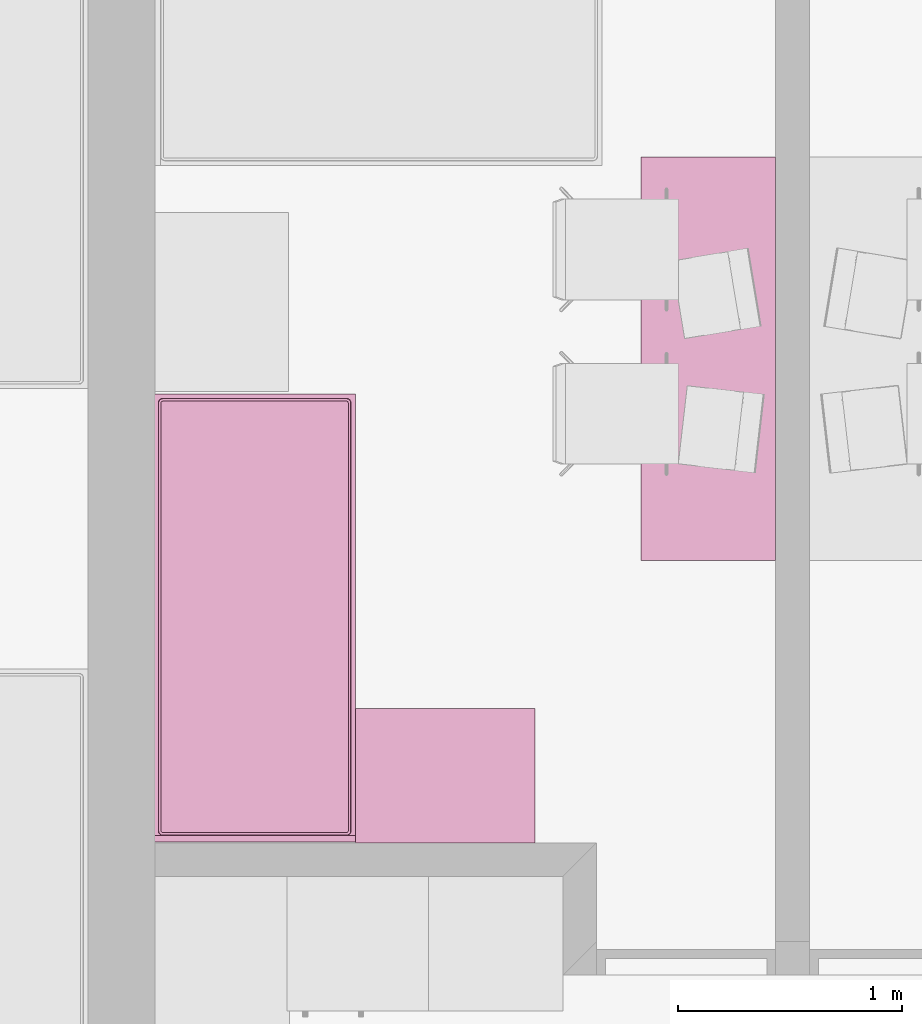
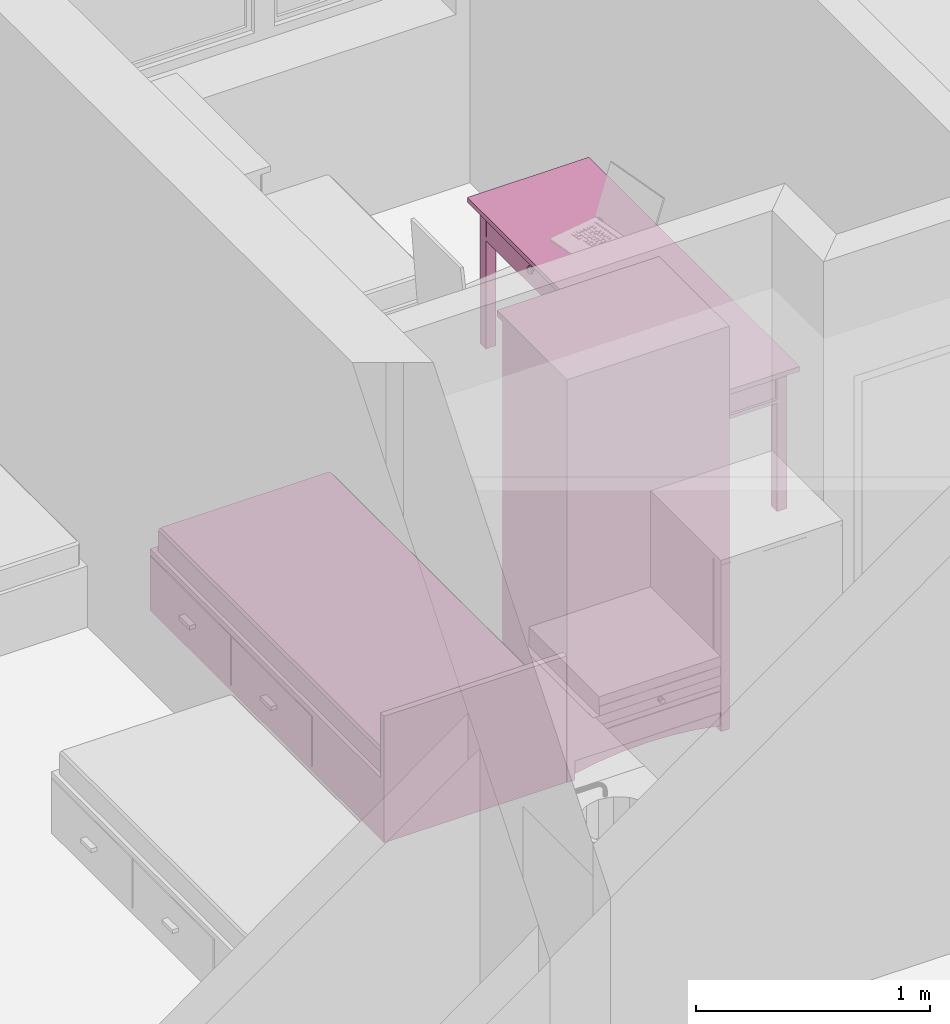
# One storey, part 92 of 172: 3 furnishings.
"""IFC2X3 building model written with IfcOpenShell, lengths in millimetres."""

from ifc_helpers import new_model, entity, si_unit, converted_unit, money_unit, direction, frame, origin_with_axes, place, context, subcontext, project, spatial, faceted_brep, source, transform, mapped, material, material_list, type_object, element, save


model = new_model("IFC2X3")

# Units and contexts
model_context = context("Model", 3, precision=1e-05, world=origin_with_axes(), true_north=direction((0.0, 1.0)))
body_context = subcontext(model_context, "Body", "Model", "MODEL_VIEW")
ifc_project = project(units=[si_unit("LENGTHUNIT", "METRE", prefix="MILLI"), si_unit("AREAUNIT", "SQUARE_METRE"), si_unit("VOLUMEUNIT", "CUBIC_METRE"), converted_unit("PLANEANGLEUNIT", "DEGREE", entity("IfcPlaneAngleMeasure", 0.0174532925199), si_unit("PLANEANGLEUNIT", "RADIAN"), dimensions=[0, 0, 0, 0, 0, 0, 0]), si_unit("SOLIDANGLEUNIT", "STERADIAN"), money_unit("USD"), converted_unit("TIMEUNIT", "Year", entity("IfcTimeMeasure", 31556926.0), si_unit("TIMEUNIT", "SECOND"), dimensions=[0, 0, 0, 0, 0, 0, 0]), si_unit("MASSUNIT", "GRAM"), si_unit("THERMODYNAMICTEMPERATUREUNIT", "DEGREE_CELSIUS"), si_unit("LUMINOUSINTENSITYUNIT", "LUMEN")], contexts=[model_context])

# Site, building, storey
site_placement = place(None, origin_with_axes())
site = spatial("IfcSite", under=ifc_project, at=site_placement, Name="Site", CompositionType="ELEMENT")
building_placement = place(site_placement, origin_with_axes())
building = spatial("IfcBuilding", under=site, at=building_placement, Name="Building", CompositionType="ELEMENT")
storey_placement = place(building_placement, frame((0.0, 0.0, 3200.0), z_axis=(0.0, 0.0, 1.0), x_axis=(1.0, 0.0, 0.0)))
storey = spatial("IfcBuildingStorey", under=building, at=storey_placement, Name="3KORRUS", CompositionType="ELEMENT", Elevation=3200.0)

# Furnishings
ifc_material = material(Name="Background")
ifc_material_list = material_list([ifc_material])
furnishing_element_type_1 = type_object("IfcFurnishingElementType", Name="Bed 19")
shared_shape_1 = source(origin_with_axes(), body_context, "Body", "Brep", [
    faceted_brep([(900.0, 1970.0, 0.0), (0.0, 1970.0, 0.0), (0.0, 2000.0, 0.0), (900.0, 2000.0, 0.0), (900.0, 1970.0, 660.0), (0.0, 1970.0, 660.0), (0.0, 2000.0, 660.0), (900.0, 2000.0, 660.0)], [[[0, 1, 2, 3]], [[1, 0, 4, 5]], [[2, 1, 5, 6]], [[3, 2, 6, 7]], [[0, 3, 7, 4]], [[5, 4, 7, 6]]]),
    faceted_brep([(900.0, 0.0, 0.0), (0.0, 0.0, 0.0), (0.0, 1970.0, 0.0), (900.0, 1970.0, 0.0), (900.0, 0.0, 320.0), (0.0, 0.0, 320.0), (0.0, 1970.0, 320.0), (900.0, 1970.0, 320.0)], [[[0, 1, 2, 3]], [[1, 0, 4, 5]], [[2, 1, 5, 6]], [[3, 2, 6, 7]], [[0, 3, 7, 4]], [[5, 4, 7, 6]]]),
    faceted_brep([(905.0, 10.0, 30.0), (900.0, 10.0, 30.0), (900.0, 695.0, 30.0), (905.0, 695.0, 30.0), (905.0, 10.0, 290.0), (900.0, 10.0, 290.0), (900.0, 695.0, 290.0), (905.0, 695.0, 290.0)], [[[0, 1, 2, 3]], [[1, 0, 4, 5]], [[2, 1, 5, 6]], [[3, 2, 6, 7]], [[0, 3, 7, 4]], [[5, 4, 7, 6]]]),
    faceted_brep([(935.0, 307.5, 150.0), (905.0, 307.5, 150.0), (905.0, 397.5, 150.0), (935.0, 397.5, 150.0), (935.0, 307.5, 170.0), (905.0, 307.5, 170.0), (905.0, 397.5, 170.0), (935.0, 397.5, 170.0)], [[[0, 1, 2, 3]], [[1, 0, 4, 5]], [[2, 1, 5, 6]], [[3, 2, 6, 7]], [[0, 3, 7, 4]], [[5, 4, 7, 6]]]),
    faceted_brep([(905.0, 705.0, 30.0), (900.0, 705.0, 30.0), (900.0, 1390.0, 30.0), (905.0, 1390.0, 30.0), (905.0, 705.0, 290.0), (900.0, 705.0, 290.0), (900.0, 1390.0, 290.0), (905.0, 1390.0, 290.0)], [[[0, 1, 2, 3]], [[1, 0, 4, 5]], [[2, 1, 5, 6]], [[3, 2, 6, 7]], [[0, 3, 7, 4]], [[5, 4, 7, 6]]]),
    faceted_brep([(935.0, 1002.5, 150.0), (905.0, 1002.5, 150.0), (905.0, 1092.5, 150.0), (935.0, 1092.5, 150.0), (935.0, 1002.5, 170.0), (905.0, 1002.5, 170.0), (905.0, 1092.5, 170.0), (935.0, 1092.5, 170.0)], [[[0, 1, 2, 3]], [[1, 0, 4, 5]], [[2, 1, 5, 6]], [[3, 2, 6, 7]], [[0, 3, 7, 4]], [[5, 4, 7, 6]]]),
    faceted_brep([(20.0, 40.0, 350.0), (20.0, 1950.0, 350.0), (21.522, 1957.654, 350.0), (25.858, 1964.142, 350.0), (32.346, 1968.478, 350.0), (40.0, 1970.0, 350.0), (860.0, 1970.0, 350.0), (867.654, 1968.478, 350.0), (874.142, 1964.142, 350.0), (878.478, 1957.654, 350.0), (880.0, 1950.0, 350.0), (880.0, 40.0, 350.0), (878.478, 32.346, 350.0), (874.142, 25.858, 350.0), (867.654, 21.522, 350.0), (860.0, 20.0, 350.0), (40.0, 20.0, 350.0), (32.346, 21.522, 350.0), (25.858, 25.858, 350.0), (21.522, 32.346, 350.0), (20.0, 40.0, 420.0), (20.0, 1950.0, 420.0), (21.522, 1957.654, 420.0), (25.858, 1964.142, 420.0), (32.346, 1968.478, 420.0), (40.0, 1970.0, 420.0), (860.0, 1970.0, 420.0), (867.654, 1968.478, 420.0), (874.142, 1964.142, 420.0), (878.478, 1957.654, 420.0), (880.0, 1950.0, 420.0), (880.0, 40.0, 420.0), (878.478, 32.346, 420.0), (874.142, 25.858, 420.0), (867.654, 21.522, 420.0), (860.0, 20.0, 420.0), (40.0, 20.0, 420.0), (32.346, 21.522, 420.0), (25.858, 25.858, 420.0), (21.522, 32.346, 420.0), (21.522, 40.15, 427.654), (21.522, 1949.85, 427.654), (22.956, 1957.06, 427.654), (26.955, 1963.045, 427.654), (32.94, 1967.044, 427.654), (40.15, 1968.478, 427.654), (859.85, 1968.478, 427.654), (867.06, 1967.044, 427.654), (873.045, 1963.045, 427.654), (877.044, 1957.06, 427.654), (878.478, 1949.85, 427.654), (878.478, 40.15, 427.654), (877.044, 32.94, 427.654), (873.045, 26.955, 427.654), (867.06, 22.956, 427.654), (859.85, 21.522, 427.654), (40.15, 21.522, 427.654), (32.94, 22.956, 427.654), (26.955, 26.955, 427.654), (22.956, 32.94, 427.654), (32.346, 41.216, 438.478), (32.346, 1948.784, 438.478), (33.152, 1952.836, 438.478), (34.759, 1955.241, 438.478), (37.164, 1956.848, 438.478), (41.216, 1957.654, 438.478), (858.784, 1957.654, 438.478), (862.836, 1956.848, 438.478), (865.241, 1955.241, 438.478), (866.848, 1952.836, 438.478), (867.654, 1948.784, 438.478), (867.654, 41.216, 438.478), (866.848, 37.164, 438.478), (865.241, 34.759, 438.478), (862.836, 33.152, 438.478), (858.784, 32.346, 438.478), (41.216, 32.346, 438.478), (37.164, 33.152, 438.478), (34.759, 34.759, 438.478), (33.152, 37.164, 438.478), (40.0, 41.97, 440.0), (40.0, 1948.03, 440.0), (40.327, 1949.673, 440.0), (40.0, 1950.0, 439.924), (41.97, 1950.0, 440.0), (858.03, 1950.0, 440.0), (859.673, 1949.673, 440.0), (860.0, 1950.0, 439.924), (860.0, 1948.03, 440.0), (860.0, 41.97, 440.0), (859.673, 40.327, 440.0), (860.0, 40.0, 439.924), (858.03, 40.0, 440.0), (41.97, 40.0, 440.0), (40.327, 40.327, 440.0), (40.0, 40.0, 439.924)], [[[0, 1, 2, 3, 4, 5, 6, 7, 8, 9, 10, 11, 12, 13, 14, 15, 16, 17, 18, 19]], [[1, 0, 20, 21]], [[2, 1, 21, 22]], [[3, 2, 22, 23]], [[4, 3, 23, 24]], [[5, 4, 24, 25]], [[6, 5, 25, 26]], [[7, 6, 26, 27]], [[8, 7, 27, 28]], [[9, 8, 28, 29]], [[10, 9, 29, 30]], [[11, 10, 30, 31]], [[12, 11, 31, 32]], [[13, 12, 32, 33]], [[14, 13, 33, 34]], [[15, 14, 34, 35]], [[16, 15, 35, 36]], [[17, 16, 36, 37]], [[18, 17, 37, 38]], [[19, 18, 38, 39]], [[0, 19, 39, 20]], [[21, 20, 40, 41]], [[22, 21, 41, 42]], [[23, 22, 42, 43]], [[24, 23, 43, 44]], [[25, 24, 44, 45]], [[26, 25, 45, 46]], [[27, 26, 46, 47]], [[28, 27, 47, 48]], [[29, 28, 48, 49]], [[30, 29, 49, 50]], [[31, 30, 50, 51]], [[32, 31, 51, 52]], [[33, 32, 52, 53]], [[34, 33, 53, 54]], [[35, 34, 54, 55]], [[36, 35, 55, 56]], [[37, 36, 56, 57]], [[38, 37, 57, 58]], [[39, 38, 58, 59]], [[20, 39, 59, 40]], [[41, 40, 60, 61]], [[42, 41, 61, 62]], [[43, 42, 62, 63]], [[44, 43, 63, 64]], [[45, 44, 64, 65]], [[46, 45, 65, 66]], [[47, 46, 66, 67]], [[48, 47, 67, 68]], [[49, 48, 68, 69]], [[50, 49, 69, 70]], [[51, 50, 70, 71]], [[52, 51, 71, 72]], [[53, 52, 72, 73]], [[54, 53, 73, 74]], [[55, 54, 74, 75]], [[56, 55, 75, 76]], [[57, 56, 76, 77]], [[58, 57, 77, 78]], [[59, 58, 78, 79]], [[40, 59, 79, 60]], [[61, 60, 80, 81]], [[62, 61, 81, 82, 83]], [[63, 62, 83]], [[64, 63, 83]], [[65, 64, 83, 82, 84]], [[66, 65, 84, 85]], [[67, 66, 85, 86, 87]], [[68, 67, 87]], [[69, 68, 87]], [[70, 69, 87, 86, 88]], [[71, 70, 88, 89]], [[72, 71, 89, 90, 91]], [[73, 72, 91]], [[74, 73, 91]], [[75, 74, 91, 90, 92]], [[76, 75, 92, 93]], [[77, 76, 93, 94, 95]], [[78, 77, 95]], [[79, 78, 95]], [[60, 79, 95, 94, 80]], [[81, 80, 94, 93, 92, 90, 89, 88, 86, 85, 84, 82]]]),
    faceted_brep([(20.0, 40.0, 350.0), (21.522, 32.346, 350.0), (25.858, 25.858, 350.0), (32.346, 21.522, 350.0), (40.0, 20.0, 350.0), (860.0, 20.0, 350.0), (867.654, 21.522, 350.0), (874.142, 25.858, 350.0), (878.478, 32.346, 350.0), (880.0, 40.0, 350.0), (880.0, 1950.0, 350.0), (878.478, 1957.654, 350.0), (874.142, 1964.142, 350.0), (867.654, 1968.478, 350.0), (860.0, 1970.0, 350.0), (40.0, 1970.0, 350.0), (32.346, 1968.478, 350.0), (25.858, 1964.142, 350.0), (21.522, 1957.654, 350.0), (20.0, 1950.0, 350.0), (20.0, 40.0, 320.0), (21.522, 32.346, 320.0), (25.858, 25.858, 320.0), (32.346, 21.522, 320.0), (40.0, 20.0, 320.0), (860.0, 20.0, 320.0), (867.654, 21.522, 320.0), (874.142, 25.858, 320.0), (878.478, 32.346, 320.0), (880.0, 40.0, 320.0), (880.0, 1950.0, 320.0), (878.478, 1957.654, 320.0), (874.142, 1964.142, 320.0), (867.654, 1968.478, 320.0), (860.0, 1970.0, 320.0), (40.0, 1970.0, 320.0), (32.346, 1968.478, 320.0), (25.858, 1964.142, 320.0), (21.522, 1957.654, 320.0), (20.0, 1950.0, 320.0)], [[[0, 1, 2, 3, 4, 5, 6, 7, 8, 9, 10, 11, 12, 13, 14, 15, 16, 17, 18, 19]], [[0, 20, 21, 1]], [[1, 21, 22, 2]], [[2, 22, 23, 3]], [[3, 23, 24, 4]], [[4, 24, 25, 5]], [[5, 25, 26, 6]], [[6, 26, 27, 7]], [[7, 27, 28, 8]], [[8, 28, 29, 9]], [[9, 29, 30, 10]], [[10, 30, 31, 11]], [[11, 31, 32, 12]], [[12, 32, 33, 13]], [[13, 33, 34, 14]], [[14, 34, 35, 15]], [[15, 35, 36, 16]], [[16, 36, 37, 17]], [[17, 37, 38, 18]], [[18, 38, 39, 19]], [[19, 39, 20, 0]], [[20, 39, 38, 37, 36, 35, 34, 33, 32, 31, 30, 29, 28, 27, 26, 25, 24, 23, 22, 21]]]),
])
furnishing_1_placement = place(storey_placement, frame((-41096.5850987, -7213.30556125, 0.0), z_axis=(0.0, 0.0, 1.0), x_axis=(-1.0, 0.0, 0.0)))
element("IfcFurnishingElement", 1, at=furnishing_1_placement, inside=storey, type_object=furnishing_element_type_1, material=ifc_material_list, Name="FU - 013", context=body_context, shape_type="MappedRepresentation", body=[
    mapped(shared_shape_1, transform((0.0, 0.0, 0.0))),
])
furnishing_element_type_2 = type_object("IfcFurnishingElementType", Name="Cupboard 19")
shared_shape_2 = source(origin_with_axes(), body_context, "Body", "Brep", [
    faceted_brep([(780.0, 600.0, 120.0), (780.0, 600.0, 2050.0), (780.0, 580.0, 2050.0), (780.0, 580.0, 120.0), (20.0, 600.0, 120.0), (20.0, 600.0, 2050.0), (20.0, 580.0, 2050.0), (20.0, 580.0, 120.0)], [[[0, 1, 2, 3]], [[4, 5, 1, 0]], [[1, 5, 6, 2]], [[3, 2, 6, 7]], [[0, 3, 7, 4]], [[7, 6, 5, 4]]]),
    faceted_brep([(0.0, 50.0, 100.0), (0.0, 600.0, 100.0), (20.0, 600.0, 100.0), (20.0, 50.0, 100.0), (0.0, 50.0, 2070.0), (0.0, 600.0, 2070.0), (20.0, 600.0, 2070.0), (20.0, 50.0, 2070.0)], [[[0, 1, 2, 3]], [[0, 4, 5, 1]], [[1, 5, 6, 2]], [[2, 6, 7, 3]], [[3, 7, 4, 0]], [[7, 6, 5, 4]]]),
    faceted_brep([(780.0, 50.0, 100.0), (780.0, 600.0, 100.0), (800.0, 600.0, 100.0), (800.0, 50.0, 100.0), (780.0, 50.0, 2070.0), (780.0, 600.0, 2070.0), (800.0, 600.0, 2070.0), (800.0, 50.0, 2070.0)], [[[0, 1, 2, 3]], [[0, 4, 5, 1]], [[1, 5, 6, 2]], [[2, 6, 7, 3]], [[3, 7, 4, 0]], [[7, 6, 5, 4]]]),
    faceted_brep([(20.0, 50.0, 100.0), (20.0, 600.0, 100.0), (780.0, 600.0, 100.0), (780.0, 50.0, 100.0), (20.0, 50.0, 120.0), (20.0, 600.0, 120.0), (780.0, 600.0, 120.0), (780.0, 50.0, 120.0)], [[[0, 1, 2, 3]], [[0, 4, 5, 1]], [[1, 5, 6, 2]], [[2, 6, 7, 3]], [[3, 7, 4, 0]], [[7, 6, 5, 4]]]),
    faceted_brep([(20.0, 50.0, 2050.0), (20.0, 600.0, 2050.0), (780.0, 600.0, 2050.0), (780.0, 50.0, 2050.0), (20.0, 50.0, 2070.0), (20.0, 600.0, 2070.0), (780.0, 600.0, 2070.0), (780.0, 50.0, 2070.0)], [[[0, 1, 2, 3]], [[0, 4, 5, 1]], [[1, 5, 6, 2]], [[2, 6, 7, 3]], [[3, 7, 4, 0]], [[7, 6, 5, 4]]]),
    faceted_brep([(0.0, 600.0, 2070.0), (0.0, 0.0, 2070.0), (0.0, 0.0, 2100.0), (0.0, 600.0, 2100.0), (800.0, 600.0, 2070.0), (800.0, 0.0, 2070.0), (800.0, 0.0, 2100.0), (800.0, 600.0, 2100.0)], [[[0, 1, 2, 3]], [[0, 4, 5, 1]], [[1, 5, 6, 2]], [[3, 2, 6, 7]], [[4, 0, 3, 7]], [[5, 4, 7, 6]]]),
    faceted_brep([(760.0, 590.0, 25.0), (760.0, 570.0, 25.0), (640.962, 570.0, 45.8), (640.962, 590.0, 45.8), (760.0, 590.0, 100.0), (760.0, 570.0, 100.0), (40.0, 570.0, 100.0), (40.0, 570.0, 25.0), (159.038, 570.0, 45.8), (279.23, 570.0, 58.32), (400.0, 570.0, 62.5), (520.77, 570.0, 58.32), (520.77, 590.0, 58.32), (400.0, 590.0, 62.5), (279.23, 590.0, 58.32), (159.038, 590.0, 45.8), (40.0, 590.0, 25.0), (40.0, 590.0, 100.0)], [[[0, 1, 2, 3]], [[4, 5, 1, 0]], [[1, 5, 6, 7, 8, 9, 10, 11, 2]], [[3, 2, 11, 12]], [[0, 3, 12, 13, 14, 15, 16, 17, 4]], [[17, 6, 5, 4]], [[16, 7, 6, 17]], [[15, 8, 7, 16]], [[14, 9, 8, 15]], [[13, 10, 9, 14]], [[12, 11, 10, 13]]]),
    faceted_brep([(760.0, 80.0, 25.0), (760.0, 60.0, 25.0), (640.962, 60.0, 45.8), (640.962, 80.0, 45.8), (760.0, 80.0, 100.0), (760.0, 60.0, 100.0), (40.0, 60.0, 100.0), (40.0, 60.0, 25.0), (159.038, 60.0, 45.8), (279.23, 60.0, 58.32), (400.0, 60.0, 62.5), (520.77, 60.0, 58.32), (520.77, 80.0, 58.32), (400.0, 80.0, 62.5), (279.23, 80.0, 58.32), (159.038, 80.0, 45.8), (40.0, 80.0, 25.0), (40.0, 80.0, 100.0)], [[[0, 1, 2, 3]], [[4, 5, 1, 0]], [[1, 5, 6, 7, 8, 9, 10, 11, 2]], [[3, 2, 11, 12]], [[0, 3, 12, 13, 14, 15, 16, 17, 4]], [[17, 6, 5, 4]], [[16, 7, 6, 17]], [[15, 8, 7, 16]], [[14, 9, 8, 15]], [[13, 10, 9, 14]], [[12, 11, 10, 13]]]),
    faceted_brep([(790.0, 90.0, 25.0), (770.0, 90.0, 25.0), (770.0, 141.266, 38.072), (790.0, 141.266, 38.072), (790.0, 90.0, 100.0), (770.0, 90.0, 100.0), (770.0, 560.0, 100.0), (770.0, 560.0, 25.0), (770.0, 508.734, 38.072), (770.0, 456.752, 47.92), (770.0, 404.257, 54.508), (770.0, 351.453, 57.808), (770.0, 298.547, 57.808), (770.0, 245.743, 54.508), (770.0, 193.248, 47.92), (790.0, 193.248, 47.92), (790.0, 245.743, 54.508), (790.0, 298.547, 57.808), (790.0, 351.453, 57.808), (790.0, 404.257, 54.508), (790.0, 456.752, 47.92), (790.0, 508.734, 38.072), (790.0, 560.0, 25.0), (790.0, 560.0, 100.0)], [[[0, 1, 2, 3]], [[4, 5, 1, 0]], [[1, 5, 6, 7, 8, 9, 10, 11, 12, 13, 14, 2]], [[3, 2, 14, 15]], [[0, 3, 15, 16, 17, 18, 19, 20, 21, 22, 23, 4]], [[23, 6, 5, 4]], [[22, 7, 6, 23]], [[21, 8, 7, 22]], [[20, 9, 8, 21]], [[19, 10, 9, 20]], [[18, 11, 10, 19]], [[17, 12, 11, 18]], [[16, 13, 12, 17]], [[15, 14, 13, 16]]]),
    faceted_brep([(30.0, 90.0, 25.0), (10.0, 90.0, 25.0), (10.0, 141.266, 38.072), (30.0, 141.266, 38.072), (30.0, 90.0, 100.0), (10.0, 90.0, 100.0), (10.0, 560.0, 100.0), (10.0, 560.0, 25.0), (10.0, 508.734, 38.072), (10.0, 456.752, 47.92), (10.0, 404.257, 54.508), (10.0, 351.453, 57.808), (10.0, 298.547, 57.808), (10.0, 245.743, 54.508), (10.0, 193.248, 47.92), (30.0, 193.248, 47.92), (30.0, 245.743, 54.508), (30.0, 298.547, 57.808), (30.0, 351.453, 57.808), (30.0, 404.257, 54.508), (30.0, 456.752, 47.92), (30.0, 508.734, 38.072), (30.0, 560.0, 25.0), (30.0, 560.0, 100.0)], [[[0, 1, 2, 3]], [[4, 5, 1, 0]], [[1, 5, 6, 7, 8, 9, 10, 11, 12, 13, 14, 2]], [[3, 2, 14, 15]], [[0, 3, 15, 16, 17, 18, 19, 20, 21, 22, 23, 4]], [[23, 6, 5, 4]], [[22, 7, 6, 23]], [[21, 8, 7, 22]], [[20, 9, 8, 21]], [[19, 10, 9, 20]], [[18, 11, 10, 19]], [[17, 12, 11, 18]], [[16, 13, 12, 17]], [[15, 14, 13, 16]]]),
    faceted_brep([(760.0, 560.0, 0.0), (760.0, 560.0, 100.0), (760.0, 600.0, 100.0), (760.0, 600.0, 0.0), (800.0, 560.0, 0.0), (800.0, 560.0, 100.0), (800.0, 600.0, 100.0), (800.0, 600.0, 0.0)], [[[0, 1, 2, 3]], [[4, 5, 1, 0]], [[1, 5, 6, 2]], [[3, 2, 6, 7]], [[0, 3, 7, 4]], [[7, 6, 5, 4]]]),
    faceted_brep([(0.0, 560.0, 0.0), (0.0, 560.0, 100.0), (0.0, 600.0, 100.0), (0.0, 600.0, 0.0), (40.0, 560.0, 0.0), (40.0, 560.0, 100.0), (40.0, 600.0, 100.0), (40.0, 600.0, 0.0)], [[[0, 1, 2, 3]], [[4, 5, 1, 0]], [[1, 5, 6, 2]], [[3, 2, 6, 7]], [[0, 3, 7, 4]], [[7, 6, 5, 4]]]),
    faceted_brep([(760.0, 50.0, 0.0), (760.0, 50.0, 100.0), (760.0, 90.0, 100.0), (760.0, 90.0, 0.0), (800.0, 50.0, 0.0), (800.0, 50.0, 100.0), (800.0, 90.0, 100.0), (800.0, 90.0, 0.0)], [[[0, 1, 2, 3]], [[4, 5, 1, 0]], [[1, 5, 6, 2]], [[3, 2, 6, 7]], [[0, 3, 7, 4]], [[7, 6, 5, 4]]]),
    faceted_brep([(0.0, 50.0, 0.0), (0.0, 50.0, 100.0), (0.0, 90.0, 100.0), (0.0, 90.0, 0.0), (40.0, 50.0, 0.0), (40.0, 50.0, 100.0), (40.0, 90.0, 100.0), (40.0, 90.0, 0.0)], [[[0, 1, 2, 3]], [[4, 5, 1, 0]], [[1, 5, 6, 2]], [[3, 2, 6, 7]], [[0, 3, 7, 4]], [[7, 6, 5, 4]]]),
    faceted_brep([(780.0, 580.0, 587.5), (780.0, 580.0, 607.5), (780.0, 50.0, 607.5), (780.0, 50.0, 587.5), (20.0, 580.0, 587.5), (20.0, 580.0, 607.5), (20.0, 50.0, 607.5), (20.0, 50.0, 587.5)], [[[0, 1, 2, 3]], [[4, 5, 1, 0]], [[1, 5, 6, 2]], [[3, 2, 6, 7]], [[0, 3, 7, 4]], [[7, 6, 5, 4]]]),
    faceted_brep([(780.0, 580.0, 1075.0), (780.0, 580.0, 1095.0), (780.0, 50.0, 1095.0), (780.0, 50.0, 1075.0), (20.0, 580.0, 1075.0), (20.0, 580.0, 1095.0), (20.0, 50.0, 1095.0), (20.0, 50.0, 1075.0)], [[[0, 1, 2, 3]], [[4, 5, 1, 0]], [[1, 5, 6, 2]], [[3, 2, 6, 7]], [[0, 3, 7, 4]], [[7, 6, 5, 4]]]),
    faceted_brep([(780.0, 580.0, 1562.5), (780.0, 580.0, 1582.5), (780.0, 50.0, 1582.5), (780.0, 50.0, 1562.5), (20.0, 580.0, 1562.5), (20.0, 580.0, 1582.5), (20.0, 50.0, 1582.5), (20.0, 50.0, 1562.5)], [[[0, 1, 2, 3]], [[4, 5, 1, 0]], [[1, 5, 6, 2]], [[3, 2, 6, 7]], [[0, 3, 7, 4]], [[7, 6, 5, 4]]]),
    faceted_brep([(789.5, 50.0, 110.5), (400.5, 50.0, 110.5), (400.5, 50.0, 2059.5), (789.5, 50.0, 2059.5), (789.5, 40.0, 110.5), (400.5, 40.0, 110.5), (400.5, 40.0, 2059.5), (789.5, 40.0, 2059.5), (779.5, 30.0, 120.5), (410.5, 30.0, 120.5), (410.5, 30.0, 2049.5), (779.5, 30.0, 2049.5)], [[[0, 1, 2, 3]], [[0, 4, 5, 1]], [[1, 5, 6, 2]], [[2, 6, 7, 3]], [[3, 7, 4, 0]], [[4, 8, 9, 5]], [[5, 9, 10, 6]], [[6, 10, 11, 7]], [[7, 11, 8, 4]], [[10, 9, 8, 11]]]),
    faceted_brep([(399.5, 50.0, 110.5), (10.5, 50.0, 110.5), (10.5, 50.0, 2059.5), (399.5, 50.0, 2059.5), (399.5, 40.0, 110.5), (10.5, 40.0, 110.5), (10.5, 40.0, 2059.5), (399.5, 40.0, 2059.5), (389.5, 30.0, 120.5), (20.5, 30.0, 120.5), (20.5, 30.0, 2049.5), (389.5, 30.0, 2049.5)], [[[0, 1, 2, 3]], [[0, 4, 5, 1]], [[1, 5, 6, 2]], [[2, 6, 7, 3]], [[3, 7, 4, 0]], [[4, 8, 9, 5]], [[5, 9, 10, 6]], [[6, 10, 11, 7]], [[7, 11, 8, 4]], [[10, 9, 8, 11]]]),
    faceted_brep([(339.608, 30.0, 954.0), (338.0, 30.0, 960.0), (339.608, 30.0, 966.0), (344.0, 30.0, 970.392), (350.0, 30.0, 972.0), (356.0, 30.0, 970.392), (360.392, 30.0, 966.0), (362.0, 30.0, 960.0), (360.392, 30.0, 954.0), (356.0, 30.0, 949.608), (350.0, 30.0, 948.0), (344.0, 30.0, 949.608), (339.608, 5.0, 954.0), (338.0, 5.0, 960.0), (339.608, 5.0, 966.0), (344.0, 5.0, 970.392), (350.0, 5.0, 972.0), (356.0, 5.0, 970.392), (360.392, 5.0, 966.0), (362.0, 5.0, 960.0), (360.392, 5.0, 954.0), (356.0, 5.0, 949.608), (350.0, 5.0, 948.0), (344.0, 5.0, 949.608)], [[[0, 1, 2, 3, 4, 5, 6, 7, 8, 9, 10, 11]], [[0, 12, 13, 1]], [[1, 13, 14, 2]], [[2, 14, 15, 3]], [[3, 15, 16, 4]], [[4, 16, 17, 5]], [[5, 17, 18, 6]], [[6, 18, 19, 7]], [[7, 19, 20, 8]], [[8, 20, 21, 9]], [[9, 21, 22, 10]], [[10, 22, 23, 11]], [[11, 23, 12, 0]], [[12, 23, 22, 21, 20, 19, 18, 17, 16, 15, 14, 13]]]),
    faceted_brep([(460.392, 30.0, 954.0), (456.0, 30.0, 949.608), (450.0, 30.0, 948.0), (444.0, 30.0, 949.608), (439.608, 30.0, 954.0), (438.0, 30.0, 960.0), (439.608, 30.0, 966.0), (444.0, 30.0, 970.392), (450.0, 30.0, 972.0), (456.0, 30.0, 970.392), (460.392, 30.0, 966.0), (462.0, 30.0, 960.0), (460.392, 5.0, 954.0), (456.0, 5.0, 949.608), (450.0, 5.0, 948.0), (444.0, 5.0, 949.608), (439.608, 5.0, 954.0), (438.0, 5.0, 960.0), (439.608, 5.0, 966.0), (444.0, 5.0, 970.392), (450.0, 5.0, 972.0), (456.0, 5.0, 970.392), (460.392, 5.0, 966.0), (462.0, 5.0, 960.0)], [[[0, 1, 2, 3, 4, 5, 6, 7, 8, 9, 10, 11]], [[1, 0, 12, 13]], [[2, 1, 13, 14]], [[3, 2, 14, 15]], [[4, 3, 15, 16]], [[5, 4, 16, 17]], [[6, 5, 17, 18]], [[7, 6, 18, 19]], [[8, 7, 19, 20]], [[9, 8, 20, 21]], [[10, 9, 21, 22]], [[11, 10, 22, 23]], [[0, 11, 23, 12]], [[12, 23, 22, 21, 20, 19, 18, 17, 16, 15, 14, 13]]]),
])
furnishing_2_placement = place(storey_placement, frame((-40296.5850987, -8616.37850445, 0.0), z_axis=(0.0, 0.0, 1.0), x_axis=(-1.0, 0.0, 0.0)))
element("IfcFurnishingElement", 2, at=furnishing_2_placement, inside=storey, type_object=furnishing_element_type_2, material=ifc_material_list, Name="FU - 014", context=body_context, shape_type="MappedRepresentation", body=[
    mapped(shared_shape_2, transform((0.0, 0.0, 0.0))),
])
furnishing_element_type_3 = type_object("IfcFurnishingElementType", Name="Rectangular Table 01 19")
shared_shape_3 = source(origin_with_axes(), body_context, "Body", "Brep", [
    faceted_brep([(90.0, 40.0, 0.0), (40.0, 40.0, 0.0), (40.0, 90.0, 0.0), (90.0, 90.0, 0.0), (90.0, 40.0, 725.0), (40.0, 40.0, 725.0), (40.0, 90.0, 725.0), (90.0, 90.0, 725.0)], [[[0, 1, 2, 3]], [[1, 0, 4, 5]], [[2, 1, 5, 6]], [[3, 2, 6, 7]], [[0, 3, 7, 4]], [[5, 4, 7, 6]]]),
    faceted_brep([(1760.0, 40.0, 0.0), (1710.0, 40.0, 0.0), (1710.0, 90.0, 0.0), (1760.0, 90.0, 0.0), (1760.0, 40.0, 725.0), (1710.0, 40.0, 725.0), (1710.0, 90.0, 725.0), (1760.0, 90.0, 725.0)], [[[0, 1, 2, 3]], [[1, 0, 4, 5]], [[2, 1, 5, 6]], [[3, 2, 6, 7]], [[0, 3, 7, 4]], [[5, 4, 7, 6]]]),
    faceted_brep([(90.0, 510.0, 0.0), (40.0, 510.0, 0.0), (40.0, 560.0, 0.0), (90.0, 560.0, 0.0), (90.0, 510.0, 725.0), (40.0, 510.0, 725.0), (40.0, 560.0, 725.0), (90.0, 560.0, 725.0)], [[[0, 1, 2, 3]], [[1, 0, 4, 5]], [[2, 1, 5, 6]], [[3, 2, 6, 7]], [[0, 3, 7, 4]], [[5, 4, 7, 6]]]),
    faceted_brep([(1760.0, 510.0, 0.0), (1710.0, 510.0, 0.0), (1710.0, 560.0, 0.0), (1760.0, 560.0, 0.0), (1760.0, 510.0, 725.0), (1710.0, 510.0, 725.0), (1710.0, 560.0, 725.0), (1760.0, 560.0, 725.0)], [[[0, 1, 2, 3]], [[1, 0, 4, 5]], [[2, 1, 5, 6]], [[3, 2, 6, 7]], [[0, 3, 7, 4]], [[5, 4, 7, 6]]]),
    faceted_brep([(1760.0, 40.0, 565.0), (40.0, 40.0, 565.0), (40.0, 560.0, 565.0), (1760.0, 560.0, 565.0), (1760.0, 40.0, 585.0), (40.0, 40.0, 585.0), (40.0, 560.0, 585.0), (1760.0, 560.0, 585.0)], [[[0, 1, 2, 3]], [[1, 0, 4, 5]], [[2, 1, 5, 6]], [[3, 2, 6, 7]], [[0, 3, 7, 4]], [[5, 4, 7, 6]]]),
    faceted_brep([(1710.0, 52.5, 585.0), (90.0, 52.5, 585.0), (90.0, 77.5, 585.0), (1710.0, 77.5, 585.0), (1710.0, 52.5, 745.0), (90.0, 52.5, 745.0), (90.0, 77.5, 745.0), (1710.0, 77.5, 745.0)], [[[0, 1, 2, 3]], [[1, 0, 4, 5]], [[2, 1, 5, 6]], [[3, 2, 6, 7]], [[0, 3, 7, 4]], [[5, 4, 7, 6]]]),
    faceted_brep([(77.5, 90.0, 585.0), (52.5, 90.0, 585.0), (52.5, 510.0, 585.0), (77.5, 510.0, 585.0), (77.5, 90.0, 745.0), (52.5, 90.0, 745.0), (52.5, 510.0, 745.0), (77.5, 510.0, 745.0)], [[[0, 1, 2, 3]], [[1, 0, 4, 5]], [[2, 1, 5, 6]], [[3, 2, 6, 7]], [[0, 3, 7, 4]], [[5, 4, 7, 6]]]),
    faceted_brep([(90.0, 547.5, 585.0), (1710.0, 547.5, 585.0), (1710.0, 522.5, 585.0), (90.0, 522.5, 585.0), (90.0, 547.5, 745.0), (1710.0, 547.5, 745.0), (1710.0, 522.5, 745.0), (90.0, 522.5, 745.0)], [[[0, 1, 2, 3]], [[1, 0, 4, 5]], [[2, 1, 5, 6]], [[3, 2, 6, 7]], [[0, 3, 7, 4]], [[5, 4, 7, 6]]]),
    faceted_brep([(1722.5, 510.0, 585.0), (1747.5, 510.0, 585.0), (1747.5, 90.0, 585.0), (1722.5, 90.0, 585.0), (1722.5, 510.0, 745.0), (1747.5, 510.0, 745.0), (1747.5, 90.0, 745.0), (1722.5, 90.0, 745.0)], [[[0, 1, 2, 3]], [[1, 0, 4, 5]], [[2, 1, 5, 6]], [[3, 2, 6, 7]], [[0, 3, 7, 4]], [[5, 4, 7, 6]]]),
    faceted_brep([(897.5, 40.0, 585.0), (95.0, 40.0, 585.0), (95.0, 60.0, 585.0), (897.5, 60.0, 585.0), (897.5, 40.0, 745.0), (95.0, 40.0, 745.0), (95.0, 60.0, 745.0), (897.5, 60.0, 745.0)], [[[0, 1, 2, 3]], [[1, 0, 4, 5]], [[2, 1, 5, 6]], [[3, 2, 6, 7]], [[0, 3, 7, 4]], [[5, 4, 7, 6]]]),
    faceted_brep([(1705.0, 40.0, 585.0), (902.5, 40.0, 585.0), (902.5, 60.0, 585.0), (1705.0, 60.0, 585.0), (1705.0, 40.0, 745.0), (902.5, 40.0, 745.0), (902.5, 60.0, 745.0), (1705.0, 60.0, 745.0)], [[[0, 1, 2, 3]], [[1, 0, 4, 5]], [[2, 1, 5, 6]], [[3, 2, 6, 7]], [[0, 3, 7, 4]], [[5, 4, 7, 6]]]),
    faceted_brep([(504.91, 40.0, 660.0), (501.25, 40.0, 656.34), (496.25, 40.0, 655.0), (491.25, 40.0, 656.34), (487.59, 40.0, 660.0), (486.25, 40.0, 665.0), (487.59, 40.0, 670.0), (491.25, 40.0, 673.66), (496.25, 40.0, 675.0), (501.25, 40.0, 673.66), (504.91, 40.0, 670.0), (506.25, 40.0, 665.0), (504.91, 25.0, 660.0), (501.25, 25.0, 656.34), (496.25, 25.0, 655.0), (491.25, 25.0, 656.34), (487.59, 25.0, 660.0), (486.25, 25.0, 665.0), (487.59, 25.0, 670.0), (491.25, 25.0, 673.66), (496.25, 25.0, 675.0), (501.25, 25.0, 673.66), (504.91, 25.0, 670.0), (506.25, 25.0, 665.0)], [[[0, 1, 2, 3, 4, 5, 6, 7, 8, 9, 10, 11]], [[1, 0, 12, 13]], [[2, 1, 13, 14]], [[3, 2, 14, 15]], [[4, 3, 15, 16]], [[5, 4, 16, 17]], [[6, 5, 17, 18]], [[7, 6, 18, 19]], [[8, 7, 19, 20]], [[9, 8, 20, 21]], [[10, 9, 21, 22]], [[11, 10, 22, 23]], [[0, 11, 23, 12]], [[12, 23, 22, 21, 20, 19, 18, 17, 16, 15, 14, 13]]]),
    faceted_brep([(506.25, 12.01, 665.0), (496.25, 10.0, 665.0), (504.91, 12.01, 660.0), (504.91, 12.01, 670.0), (501.25, 12.01, 656.34), (513.571, 17.5, 665.0), (511.25, 17.5, 656.34), (501.25, 12.01, 673.66), (511.25, 17.5, 673.66), (496.25, 12.01, 655.0), (504.91, 17.5, 650.0), (516.25, 25.0, 665.0), (513.571, 25.0, 655.0), (496.25, 12.01, 675.0), (504.91, 17.5, 680.0), (513.571, 25.0, 675.0), (491.25, 12.01, 656.34), (496.25, 17.5, 647.679), (506.25, 25.0, 647.679), (496.25, 25.0, 645.0), (486.25, 25.0, 647.679), (478.929, 25.0, 655.0), (476.25, 25.0, 665.0), (478.929, 25.0, 675.0), (486.25, 25.0, 682.321), (496.25, 25.0, 685.0), (506.25, 25.0, 682.321), (491.25, 12.01, 673.66), (496.25, 17.5, 682.321), (487.59, 12.01, 660.0), (487.59, 17.5, 650.0), (481.25, 17.5, 656.34), (478.929, 17.5, 665.0), (481.25, 17.5, 673.66), (487.59, 17.5, 680.0), (487.59, 12.01, 670.0), (486.25, 12.01, 665.0)], [[[0, 1, 2]], [[3, 1, 0]], [[2, 1, 4]], [[5, 0, 2, 6]], [[7, 1, 3]], [[8, 3, 0, 5]], [[4, 1, 9]], [[6, 2, 4, 10]], [[11, 5, 6, 12]], [[13, 1, 7]], [[14, 7, 3, 8]], [[15, 8, 5, 11]], [[9, 1, 16]], [[10, 4, 9, 17]], [[12, 6, 10, 18]], [[12, 18, 19, 20, 21, 22, 23, 24, 25, 26, 15, 11]], [[27, 1, 13]], [[28, 13, 7, 14]], [[26, 14, 8, 15]], [[16, 1, 29]], [[17, 9, 16, 30]], [[18, 10, 17, 19]], [[19, 17, 30, 20]], [[20, 30, 31, 21]], [[21, 31, 32, 22]], [[22, 32, 33, 23]], [[23, 33, 34, 24]], [[24, 34, 28, 25]], [[25, 28, 14, 26]], [[35, 1, 27]], [[34, 27, 13, 28]], [[29, 1, 36]], [[30, 16, 29, 31]], [[31, 29, 36, 32]], [[32, 36, 35, 33]], [[33, 35, 27, 34]], [[36, 1, 35]]]),
    faceted_brep([(1312.41, 40.0, 660.0), (1308.75, 40.0, 656.34), (1303.75, 40.0, 655.0), (1298.75, 40.0, 656.34), (1295.09, 40.0, 660.0), (1293.75, 40.0, 665.0), (1295.09, 40.0, 670.0), (1298.75, 40.0, 673.66), (1303.75, 40.0, 675.0), (1308.75, 40.0, 673.66), (1312.41, 40.0, 670.0), (1313.75, 40.0, 665.0), (1312.41, 25.0, 660.0), (1308.75, 25.0, 656.34), (1303.75, 25.0, 655.0), (1298.75, 25.0, 656.34), (1295.09, 25.0, 660.0), (1293.75, 25.0, 665.0), (1295.09, 25.0, 670.0), (1298.75, 25.0, 673.66), (1303.75, 25.0, 675.0), (1308.75, 25.0, 673.66), (1312.41, 25.0, 670.0), (1313.75, 25.0, 665.0)], [[[0, 1, 2, 3, 4, 5, 6, 7, 8, 9, 10, 11]], [[1, 0, 12, 13]], [[2, 1, 13, 14]], [[3, 2, 14, 15]], [[4, 3, 15, 16]], [[5, 4, 16, 17]], [[6, 5, 17, 18]], [[7, 6, 18, 19]], [[8, 7, 19, 20]], [[9, 8, 20, 21]], [[10, 9, 21, 22]], [[11, 10, 22, 23]], [[0, 11, 23, 12]], [[12, 23, 22, 21, 20, 19, 18, 17, 16, 15, 14, 13]]]),
    faceted_brep([(1313.75, 12.01, 665.0), (1303.75, 10.0, 665.0), (1312.41, 12.01, 660.0), (1312.41, 12.01, 670.0), (1308.75, 12.01, 656.34), (1321.071, 17.5, 665.0), (1318.75, 17.5, 656.34), (1308.75, 12.01, 673.66), (1318.75, 17.5, 673.66), (1303.75, 12.01, 655.0), (1312.41, 17.5, 650.0), (1323.75, 25.0, 665.0), (1321.071, 25.0, 655.0), (1303.75, 12.01, 675.0), (1312.41, 17.5, 680.0), (1321.071, 25.0, 675.0), (1298.75, 12.01, 656.34), (1303.75, 17.5, 647.679), (1313.75, 25.0, 647.679), (1303.75, 25.0, 645.0), (1293.75, 25.0, 647.679), (1286.429, 25.0, 655.0), (1283.75, 25.0, 665.0), (1286.429, 25.0, 675.0), (1293.75, 25.0, 682.321), (1303.75, 25.0, 685.0), (1313.75, 25.0, 682.321), (1298.75, 12.01, 673.66), (1303.75, 17.5, 682.321), (1295.09, 12.01, 660.0), (1295.09, 17.5, 650.0), (1288.75, 17.5, 656.34), (1286.429, 17.5, 665.0), (1288.75, 17.5, 673.66), (1295.09, 17.5, 680.0), (1295.09, 12.01, 670.0), (1293.75, 12.01, 665.0)], [[[0, 1, 2]], [[3, 1, 0]], [[2, 1, 4]], [[5, 0, 2, 6]], [[7, 1, 3]], [[8, 3, 0, 5]], [[4, 1, 9]], [[6, 2, 4, 10]], [[11, 5, 6, 12]], [[13, 1, 7]], [[14, 7, 3, 8]], [[15, 8, 5, 11]], [[9, 1, 16]], [[10, 4, 9, 17]], [[12, 6, 10, 18]], [[12, 18, 19, 20, 21, 22, 23, 24, 25, 26, 15, 11]], [[27, 1, 13]], [[28, 13, 7, 14]], [[26, 14, 8, 15]], [[16, 1, 29]], [[17, 9, 16, 30]], [[18, 10, 17, 19]], [[19, 17, 30, 20]], [[20, 30, 31, 21]], [[21, 31, 32, 22]], [[22, 32, 33, 23]], [[23, 33, 34, 24]], [[24, 34, 28, 25]], [[25, 28, 14, 26]], [[35, 1, 27]], [[34, 27, 13, 28]], [[29, 1, 36]], [[30, 16, 29, 31]], [[31, 29, 36, 32]], [[32, 36, 35, 33]], [[33, 35, 27, 34]], [[36, 1, 35]]]),
    faceted_brep([(1800.0, 0.0, 725.0), (0.0, 0.0, 725.0), (0.0, 600.0, 725.0), (1800.0, 600.0, 725.0), (1800.0, 0.0, 750.0), (0.0, 0.0, 750.0), (0.0, 600.0, 750.0), (1800.0, 600.0, 750.0)], [[[0, 1, 2, 3]], [[1, 0, 4, 5]], [[2, 1, 5, 6]], [[3, 2, 6, 7]], [[0, 3, 7, 4]], [[5, 4, 7, 6]]]),
])
furnishing_3_placement = place(storey_placement, frame((-39822.0319183, -6157.26955348, 0.0), z_axis=(0.0, 0.0, 1.0), x_axis=(0.0, -1.0, 0.0)))
element("IfcFurnishingElement", 3, at=furnishing_3_placement, inside=storey, type_object=furnishing_element_type_3, material=ifc_material_list, Name="FU - 011", context=body_context, shape_type="MappedRepresentation", body=[
    mapped(shared_shape_3, transform((0.0, 0.0, 0.0))),
])

save(model, "model.ifc")
